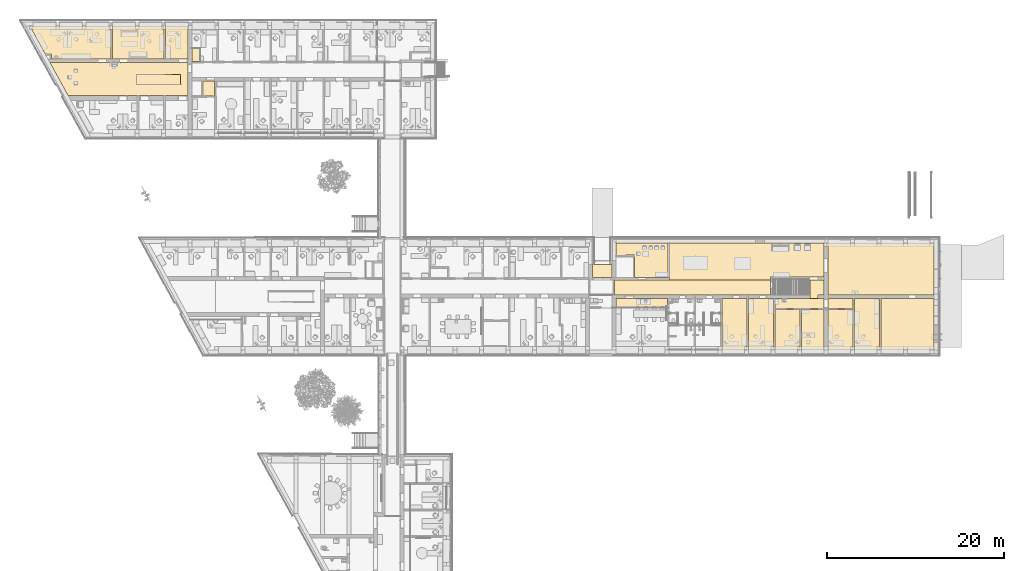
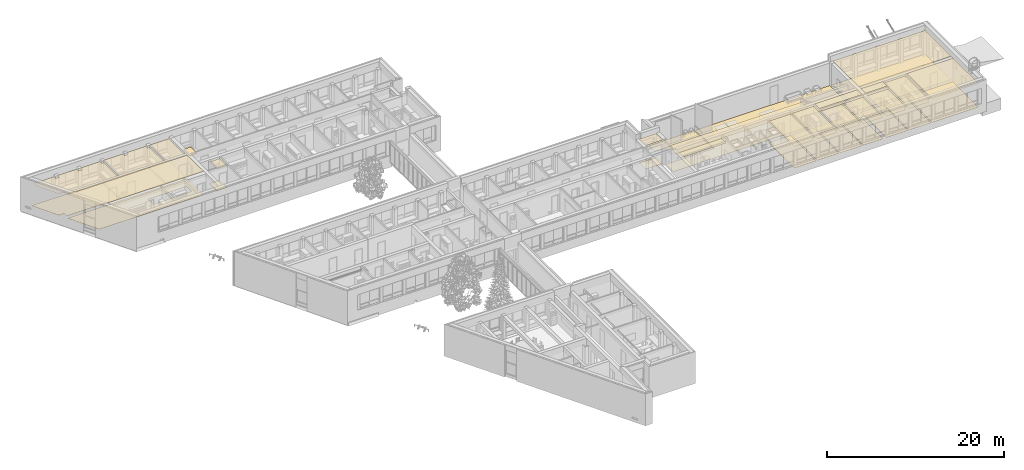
# One storey, part 108 of 194: 37 coverings, 1 opening.
"""IFC2X3 building model written with IfcOpenShell, lengths in millimetres."""

from ifc_helpers import new_model, entity, si_unit, converted_unit, derived_unit, money_unit, direction, frame, origin_with_axes, place, context, subcontext, project, spatial, polyline, outline, extrude, material, type_object, element, save


model = new_model("IFC2X3")

# Units and contexts
model_context = context("Model", 3, precision=1e-05, world=origin_with_axes(), true_north=direction((0.0, 1.0)))
body_context = subcontext(model_context, "Body", "Model", "MODEL_VIEW")
ifc_project = project(units=[si_unit("LENGTHUNIT", "METRE", prefix="MILLI"), si_unit("AREAUNIT", "SQUARE_METRE"), si_unit("VOLUMEUNIT", "CUBIC_METRE"), converted_unit("PLANEANGLEUNIT", "DEGREE", entity("IfcPlaneAngleMeasure", 0.0174532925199), si_unit("PLANEANGLEUNIT", "RADIAN"), dimensions=[0, 0, 0, 0, 0, 0, 0]), si_unit("SOLIDANGLEUNIT", "STERADIAN"), money_unit("EUR"), converted_unit("TIMEUNIT", "Year", entity("IfcTimeMeasure", 31556926.0), si_unit("TIMEUNIT", "SECOND"), dimensions=[0, 0, 1, 0, 0, 0, 0]), si_unit("MASSUNIT", "GRAM", prefix="KILO"), si_unit("THERMODYNAMICTEMPERATUREUNIT", "DEGREE_CELSIUS"), si_unit("LUMINOUSINTENSITYUNIT", "LUMEN"), si_unit("ENERGYUNIT", "JOULE", prefix="MEGA"), derived_unit("THERMALCONDUCTANCEUNIT", [(si_unit("POWERUNIT", "WATT"), 1), (si_unit("LENGTHUNIT", "METRE"), -1), (si_unit("THERMODYNAMICTEMPERATUREUNIT", "KELVIN"), -1)]), derived_unit("SPECIFICHEATCAPACITYUNIT", [(si_unit("ENERGYUNIT", "JOULE"), 1), (si_unit("MASSUNIT", "GRAM", prefix="KILO"), -1), (si_unit("THERMODYNAMICTEMPERATUREUNIT", "KELVIN"), -1)]), derived_unit("MASSDENSITYUNIT", [(si_unit("MASSUNIT", "GRAM", prefix="KILO"), 1), (si_unit("VOLUMEUNIT", "CUBIC_METRE"), -1)])], contexts=[model_context])

# Site, building, storey
site_placement = place(None, origin_with_axes())
site = spatial("IfcSite", under=ifc_project, at=site_placement, Name="Site", CompositionType="ELEMENT")
building_placement = place(site_placement, origin_with_axes())
building = spatial("IfcBuilding", under=site, at=building_placement, Name="Building", CompositionType="ELEMENT")
storey_placement = place(building_placement, frame((0.0, 0.0, 3000.0), z_axis=(0.0, 0.0, 1.0), x_axis=(1.0, 0.0, 0.0)))
storey = spatial("IfcBuildingStorey", under=building, at=storey_placement, Name="2 KORRUS", CompositionType="ELEMENT", Elevation=3000.0)

# Coverings
ifc_material_1 = material(Name="Värv")
covering_type_1 = type_object("IfcCoveringType", Name="L-3", PredefinedType="CLADDING")
covering_1_placement = place(storey_placement, frame((61722.1698335, 44486.8539632, 3250.0), z_axis=(0.0, 0.0, 1.0), x_axis=(1.0, 0.0, 0.0)))
element("IfcCovering", 1, at=covering_1_placement, inside=storey, type_object=covering_type_1, material=ifc_material_1, Name="Konstruktiivne lagi lauspahtel, värvitud", PredefinedType="CLADDING", context=body_context, shape_type="SweptSolid", body=[
    extrude(outline(polyline([(0.0, 0.0), (-229.999856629, 0.0), (-228.814816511, -1486.35987772), (2015.18295119, -1486.35987772), (2015.18295119, -20.5454795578), (0.0, -20.5454795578), (0.0, 0.0)])), origin_with_axes(), (0.0, 0.0, 1.0), 1.0),
])
covering_2_placement = place(storey_placement, frame((88155.3641805, 39495.5332203, 3250.0), z_axis=(0.0, 0.0, 1.0), x_axis=(1.0, 0.0, 0.0)))
element("IfcCovering", 2, at=covering_2_placement, inside=storey, type_object=covering_type_1, material=ifc_material_1, Name="Konstruktiivne lagi lauspahtel, värvitud", PredefinedType="CLADDING", context=body_context, shape_type="SweptSolid", body=[
    extrude(outline(polyline([(0.0, 0.0), (2848.16833802, 0.0), (2848.16833802, 1087.53171052), (0.0, 1087.53171052), (0.0, 0.0)])), origin_with_axes(), (0.0, 0.0, 1.0), 1.0),
])
covering_3_placement = place(storey_placement, frame((82157.3527847, 39493.0554222, 3250.0), z_axis=(0.0, 0.0, 1.0), x_axis=(1.0, 0.0, 0.0)))
element("IfcCovering", 3, at=covering_3_placement, inside=storey, type_object=covering_type_1, material=ifc_material_1, Name="Konstruktiivne lagi lauspahtel, värvitud", PredefinedType="CLADDING", context=body_context, shape_type="SweptSolid", body=[
    extrude(outline(polyline([(0.0, 0.0), (5580.0, 0.0), (5580.0, 1090.00950588), (0.0, 1090.00950588), (0.0, 0.0)])), origin_with_axes(), (0.0, 0.0, 1.0), 1.0),
])
covering_4_placement = place(storey_placement, frame((91.6194374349, 67305.3928576, 3250.0), z_axis=(0.0, 0.0, 1.0), x_axis=(1.0, 0.0, 0.0)))
element("IfcCovering", 4, at=covering_4_placement, inside=storey, type_object=covering_type_1, material=ifc_material_1, Name="Konstruktiivne lagi lauspahtel, värvitud", PredefinedType="CLADDING", context=body_context, shape_type="SweptSolid", body=[
    extrude(outline(polyline([(0.0, 0.0), (2037.22155452, -3700.0), (15645.6069809, -3700.0), (15645.607792, 2.56404746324e-05), (0.0, 0.0)])), origin_with_axes(), (0.0, 0.0, 1.0), 1.0),
])
covering_5_placement = place(storey_placement, frame((63991.5182806, 41003.0649281, 2387.45029227), z_axis=(0.0, 0.0, 1.0), x_axis=(1.0, 0.0, 0.0)))
element("IfcCovering", 5, at=covering_5_placement, inside=storey, type_object=covering_type_1, material=ifc_material_1, Name="Konstruktiivne lagi lauspahtel, värvitud", PredefinedType="CLADDING", context=body_context, shape_type="SweptSolid", body=[
    extrude(outline(polyline([(0.0, 0.0), (17697.3638712, 0.0), (17697.3638712, 1697.42915733), (0.0, 1697.42915733), (0.0, 0.0)])), origin_with_axes(), (0.0, 0.0, 1.0), 1.0),
])
covering_type_2 = type_object("IfcCoveringType", Name="L-5", PredefinedType="CLADDING")
covering_6_placement = place(storey_placement, frame((100196.17431, 40583.0649159, 3250.0), z_axis=(0.0, 0.0, 1.0), x_axis=(1.0, 0.0, 0.0)))
element("IfcCovering", 6, at=covering_6_placement, inside=storey, type_object=covering_type_2, material=ifc_material_1, Name="Konstruktiivne lagi kaetud tolmutõkkega ja värvitud", PredefinedType="CLADDING", context=body_context, shape_type="SweptSolid", body=[
    extrude(outline(polyline([(0.0, 0.0), (-6038.82152519, 0.0), (-6038.82152519, -5796.89069786), (0.892518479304, -5796.37581451), (0.0, 0.0)])), origin_with_axes(), (0.0, 0.0, 1.0), 1.0),
])
covering_7_placement = place(storey_placement, frame((88157.3527318, 46872.3257845, 3250.0), z_axis=(0.0, 0.0, 1.0), x_axis=(1.0, 0.0, 0.0)))
element("IfcCovering", 7, at=covering_7_placement, inside=storey, type_object=covering_type_2, material=ifc_material_1, Name="Konstruktiivne lagi kaetud tolmutõkkega ja värvitud", PredefinedType="CLADDING", context=body_context, shape_type="SweptSolid", body=[
    extrude(outline(polyline([(0.0, 0.0), (0.0, -5869.26085642), (12038.7569242, -5869.26085642), (12037.8531491, 0.0), (0.0, 0.0)])), origin_with_axes(), (0.0, 0.0, 1.0), 1.0),
])
ifc_material_2 = material(Name="Betoon - Ol.Olev konstruktsioon")
covering_type_3 = type_object("IfcCoveringType", Name="P-6", PredefinedType="NOTDEFINED")
covering_8_placement = place(storey_placement, frame((61722.1698335, 44486.8539632, 0.0), z_axis=(0.0, 0.0, 1.0), x_axis=(1.0, 0.0, 0.0)))
element("IfcCovering", 8, at=covering_8_placement, inside=storey, type_object=covering_type_3, material=ifc_material_2, Name="Betoon - Ol.Olev konstruktsioon", PredefinedType="NOTDEFINED", context=body_context, shape_type="SweptSolid", body=[
    extrude(outline(polyline([(0.0, 0.0), (-229.999856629, 0.0), (-228.814816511, -1486.35987772), (2015.18295119, -1486.35987772), (2015.18295119, -20.5454795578), (0.0, -20.5454795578), (0.0, 0.0)])), frame((0.0, 0.0, -20.0), z_axis=(0.0, 0.0, 1.0), x_axis=(1.0, 0.0, 0.0)), (0.0, 0.0, 1.0), 20.0),
])
covering_type_4 = type_object("IfcCoveringType", Name="P-2", PredefinedType="NOTDEFINED")
covering_9_placement = place(storey_placement, frame((17420.839048, 65210.0283722, 0.0), z_axis=(0.0, 0.0, 1.0), x_axis=(1.0, 0.0, 0.0)))
element("IfcCovering", 9, at=covering_9_placement, inside=storey, type_object=covering_type_4, material=ifc_material_2, Name="Betoon - Ol.Olev konstruktsioon", PredefinedType="NOTDEFINED", context=body_context, shape_type="SweptSolid", body=[
    extrude(outline(polyline([(0.0, 0.0), (0.0, -1663.55623173), (1313.67537123, -1663.55623173), (1313.7675072, 0.0), (0.0, 0.0)])), frame((0.0, 0.0, -20.0), z_axis=(0.0, 0.0, 1.0), x_axis=(1.0, 0.0, 0.0)), (0.0, 0.0, 1.0), 20.0),
])
covering_10_placement = place(storey_placement, frame((94007.3527974, 40583.0649281, 0.0), z_axis=(0.0, 0.0, 1.0), x_axis=(1.0, 0.0, 0.0)))
element("IfcCovering", 10, at=covering_10_placement, inside=storey, type_object=covering_type_4, material=ifc_material_2, Name="Betoon - Ol.Olev konstruktsioon", PredefinedType="NOTDEFINED", context=body_context, shape_type="SweptSolid", body=[
    extrude(outline(polyline([(0.0, 0.0), (-2854.78448796, 0.0), (-2849.64436323, -5797.14641134), (0.0, -5796.9034987), (0.0, 0.0)])), frame((0.0, 0.0, -20.0), z_axis=(0.0, 0.0, 1.0), x_axis=(1.0, 0.0, 0.0)), (0.0, 0.0, 1.0), 20.0),
])
covering_11_placement = place(storey_placement, frame((91003.6661884, 39344.739043, 0.0), z_axis=(0.0, 0.0, 1.0), x_axis=(1.0, 0.0, 0.0)))
element("IfcCovering", 11, at=covering_11_placement, inside=storey, type_object=covering_type_4, material=ifc_material_2, Name="Betoon - Ol.Olev konstruktsioon", PredefinedType="NOTDEFINED", context=body_context, shape_type="SweptSolid", body=[
    extrude(outline(polyline([(0.0, 0.0), (-2846.31340371, -1.45157986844), (-2846.31340371, -4559.07628807), (4.04216792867, -4558.83328244), (0.0, 0.0)])), frame((0.0, 0.0, -20.0), z_axis=(0.0, 0.0, 1.0), x_axis=(1.0, 0.0, 0.0)), (0.0, 0.0, 1.0), 20.0),
])
covering_12_placement = place(storey_placement, frame((85156.8414633, 34785.4069798, 0.0), z_axis=(0.0, 0.0, 1.0), x_axis=(1.0, 0.0, 0.0)))
element("IfcCovering", 12, at=covering_12_placement, inside=storey, type_object=covering_type_4, material=ifc_material_2, Name="Betoon - Ol.Olev konstruktsioon", PredefinedType="NOTDEFINED", context=body_context, shape_type="SweptSolid", body=[
    extrude(outline(polyline([(0.0, 0.0), (2580.51135289, 0.219968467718), (2580.51135289, 4557.5239001), (5.8789102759, 4555.48625456), (0.0, 0.0)])), frame((0.0, 0.0, -20.0), z_axis=(0.0, 0.0, 1.0), x_axis=(1.0, 0.0, 0.0)), (0.0, 0.0, 1.0), 20.0),
])
covering_13_placement = place(storey_placement, frame((85012.7201049, 39340.7745453, 0.0), z_axis=(0.0, 0.0, 1.0), x_axis=(1.0, 0.0, 0.0)))
element("IfcCovering", 13, at=covering_13_placement, inside=storey, type_object=covering_type_4, material=ifc_material_2, Name="Betoon - Ol.Olev konstruktsioon", PredefinedType="NOTDEFINED", context=body_context, shape_type="SweptSolid", body=[
    extrude(outline(polyline([(0.0, 0.0), (-2855.36732027, -2.25979517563), (-2855.36732027, -4555.62325347), (-5.87876662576, -4555.380364), (0.0, 0.0)])), frame((0.0, 0.0, -20.0), z_axis=(0.0, 0.0, 1.0), x_axis=(1.0, 0.0, 0.0)), (0.0, 0.0, 1.0), 20.0),
])
covering_14_placement = place(storey_placement, frame((82007.3527427, 40583.0649281, 0.0), z_axis=(0.0, 0.0, 1.0), x_axis=(1.0, 0.0, 0.0)))
element("IfcCovering", 14, at=covering_14_placement, inside=storey, type_object=covering_type_4, material=ifc_material_2, Name="Betoon - Ol.Olev konstruktsioon", PredefinedType="NOTDEFINED", context=body_context, shape_type="SweptSolid", body=[
    extrude(outline(polyline([(0.0, 0.0), (-2854.21203366, 0.0), (-2849.69057302, -5798.16934143), (0.0, -5797.92638593), (0.0, 0.0)])), frame((0.0, 0.0, -20.0), z_axis=(0.0, 0.0, 1.0), x_axis=(1.0, 0.0, 0.0)), (0.0, 0.0, 1.0), 20.0),
])
covering_15_placement = place(storey_placement, frame((79003.140625, 40583.0649281, 0.0), z_axis=(0.0, 0.0, 1.0), x_axis=(1.0, 0.0, 0.0)))
element("IfcCovering", 15, at=covering_15_placement, inside=storey, type_object=covering_type_4, material=ifc_material_2, Name="Betoon - Ol.Olev konstruktsioon", PredefinedType="NOTDEFINED", context=body_context, shape_type="SweptSolid", body=[
    extrude(outline(polyline([(0.0, 0.0), (-2850.44529102, 0.0), (-2845.82227981, -5798.42510227), (4.52148728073, -5798.18213606), (0.0, 0.0)])), frame((0.0, 0.0, -20.0), z_axis=(0.0, 0.0, 1.0), x_axis=(1.0, 0.0, 0.0)), (0.0, 0.0, 1.0), 20.0),
])
covering_16_placement = place(storey_placement, frame((15737.2280801, 71487.2242833, 0.0), z_axis=(0.0, 0.0, 1.0), x_axis=(1.0, 0.0, 0.0)))
element("IfcCovering", 16, at=covering_16_placement, inside=storey, type_object=covering_type_4, material=ifc_material_2, Name="Betoon - Ol.Olev konstruktsioon", PredefinedType="NOTDEFINED", context=body_context, shape_type="SweptSolid", body=[
    extrude(outline(polyline([(0.0, 0.0), (-2575.43771852, -0.491216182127), (-2575.43771852, -3761.83142567), (-0.000784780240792, -3761.83142567), (0.0, 0.0)])), frame((0.0, 0.0, -20.0), z_axis=(0.0, 0.0, 1.0), x_axis=(1.0, 0.0, 0.0)), (0.0, 0.0, 1.0), 20.0),
])
covering_17_placement = place(storey_placement, frame((13011.7903616, 71486.7045047, 0.0), z_axis=(0.0, 0.0, 1.0), x_axis=(1.0, 0.0, 0.0)))
element("IfcCovering", 17, at=covering_17_placement, inside=storey, type_object=covering_type_4, material=ifc_material_2, Name="Betoon - Ol.Olev konstruktsioon", PredefinedType="NOTDEFINED", context=body_context, shape_type="SweptSolid", body=[
    extrude(outline(polyline([(0.0, 0.0), (-5850.47675047, -1.1158909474), (-5849.75961617, -3761.31164705), (0.0, -3761.31164705), (0.0, 0.0)])), frame((0.0, 0.0, -20.0), z_axis=(0.0, 0.0, 1.0), x_axis=(1.0, 0.0, 0.0)), (0.0, 0.0, 1.0), 20.0),
])
covering_18_placement = place(storey_placement, frame((-2209.01410403, 71483.8015418, 0.0), z_axis=(0.0, 0.0, 1.0), x_axis=(1.0, 0.0, 0.0)))
element("IfcCovering", 18, at=covering_18_placement, inside=storey, type_object=covering_type_4, material=ifc_material_2, Name="Betoon - Ol.Olev konstruktsioon", PredefinedType="NOTDEFINED", context=body_context, shape_type="SweptSolid", body=[
    extrude(outline(polyline([(0.0, 0.0), (1754.19507361, -3186.44269001), (2453.15205609, -3186.44269001), (2453.15205609, -3758.40873316), (9221.04487766, -3758.40873316), (9220.32776406, 1.75850160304), (0.0, 0.0)])), frame((0.0, 0.0, -20.0), z_axis=(0.0, 0.0, 1.0), x_axis=(1.0, 0.0, 0.0)), (0.0, 0.0, 1.0), 20.0),
])
ifc_material_3 = material(Name="Kipsplaat")
covering_type_5 = type_object("IfcCoveringType", Name="L-1", PredefinedType="CEILING")
covering_19_placement = place(storey_placement, frame((12741.94885, 71486.6530071, 2950.0), z_axis=(0.0, 0.0, 1.0), x_axis=(1.0, 0.0, 0.0)))
element("IfcCovering", 19, at=covering_19_placement, inside=storey, type_object=covering_type_5, material=ifc_material_3, Name="Ripplagi. Akustine kipsplaat", PredefinedType="CEILING", context=body_context, shape_type="SweptSolid", body=[
    extrude(outline(polyline([(0.0, 0.0), (-2580.00057842, -0.492071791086), (-2580.00057842, -397.213286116), (-3000.00057842, -397.213286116), (-3005.71978882, -0.573312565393), (-5580.63523886, -1.06439342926), (-5579.91810457, -3761.26014953), (269.841511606, -3761.26014953), (269.841485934, -399.920004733), (-0.158488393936, -399.919925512), (0.0, 0.0)])), origin_with_axes(), (0.0, 0.0, 1.0), 20.0),
])
covering_20_placement = place(storey_placement, frame((-1989.65007558, 71085.3927243, 2950.0), z_axis=(0.0, 0.0, 1.0), x_axis=(1.0, 0.0, 0.0)))
element("IfcCovering", 20, at=covering_20_placement, inside=storey, type_object=covering_type_5, material=ifc_material_3, Name="Ripplagi. Akustine kipsplaat", PredefinedType="CEILING", context=body_context, shape_type="SweptSolid", body=[
    extrude(outline(polyline([(0.0, 0.0), (1535.09262863, -2788.03392049), (2233.78793131, -2788.03392049), (2233.78793131, -3359.99989645), (9001.68084921, -3359.99989645), (9001.03981505, 2.04704377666), (8731.76093769, 2.04717791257), (8730.61072471, 400.115705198), (6150.61083057, 399.623695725), (6150.2167401, 2.04717791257), (5730.21676981, 2.04717791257), (5730.14715342, 399.543482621), (3150.14725929, 399.051339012), (3150.12298074, 0.0210592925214), (2730.12301045, 0.0210592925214), (2730.4710924, 398.971394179), (150.471064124, 398.47925057), (150.471064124, 0.000134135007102), (0.0, 0.0)])), origin_with_axes(), (0.0, 0.0, 1.0), 20.0),
])
covering_21_placement = place(storey_placement, frame((15737.2280801, 71487.2242833, 2950.0), z_axis=(0.0, 0.0, 1.0), x_axis=(1.0, 0.0, 0.0)))
element("IfcCovering", 21, at=covering_21_placement, inside=storey, type_object=covering_type_5, material=ifc_material_3, Name="Ripplagi. Akustine kipsplaat", PredefinedType="CEILING", context=body_context, shape_type="SweptSolid", body=[
    extrude(outline(polyline([(0.0, 0.0), (-2575.43771852, -0.491216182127), (-2575.43771852, -3761.83142567), (-0.000784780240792, -3761.83142567), (0.0, 0.0)])), origin_with_axes(), (0.0, 0.0, 1.0), 20.0),
])
covering_22_placement = place(storey_placement, frame((17426.1801696, 65210.0283667, 2950.0), z_axis=(0.0, 0.0, 1.0), x_axis=(1.0, 0.0, 0.0)))
element("IfcCovering", 22, at=covering_22_placement, inside=storey, type_object=covering_type_5, material=ifc_material_3, Name="Ripplagi. Akustine kipsplaat", PredefinedType="CEILING", context=body_context, shape_type="SweptSolid", body=[
    extrude(outline(polyline([(0.0, 0.0), (-4.07817424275e-06, -1663.55623144), (1308.33424499, -1663.55623144), (1308.42638549, 0.0), (0.0, 0.0)])), origin_with_axes(), (0.0, 0.0, 1.0), 20.0),
])
covering_23_placement = place(storey_placement, frame((79003.140625, 40583.0649281, 2950.0), z_axis=(0.0, 0.0, 1.0), x_axis=(1.0, 0.0, 0.0)))
element("IfcCovering", 23, at=covering_23_placement, inside=storey, type_object=covering_type_5, material=ifc_material_3, Name="Ripplagi. Akustine kipsplaat", PredefinedType="CEILING", context=body_context, shape_type="SweptSolid", body=[
    extrude(outline(polyline([(0.0, 0.0), (-2850.44529102, 0.0), (-2845.82227981, -5798.42510228), (-265.753937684, -5798.20516733), (-265.787840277, -5401.4406583), (4.21220959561, -5401.44062363), (0.0, 0.0)])), origin_with_axes(), (0.0, 0.0, 1.0), 20.0),
])
covering_24_placement = place(storey_placement, frame((82007.3527427, 40583.0649281, 2950.0), z_axis=(0.0, 0.0, 1.0), x_axis=(1.0, 0.0, 0.0)))
element("IfcCovering", 24, at=covering_24_placement, inside=storey, type_object=covering_type_5, material=ifc_material_3, Name="Ripplagi. Akustine kipsplaat", PredefinedType="CEILING", context=body_context, shape_type="SweptSolid", body=[
    extrude(outline(polyline([(0.0, 0.0), (-2854.21203366, 0.0), (-2849.69057302, -5798.16934143), (-269.966077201, -5797.94940237), (-269.999957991, -5401.4406583), (5.35737854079e-05, -5401.44064998), (0.0, 0.0)])), origin_with_axes(), (0.0, 0.0, 1.0), 20.0),
])
covering_25_placement = place(storey_placement, frame((85012.7201049, 39340.7745453, 2950.0), z_axis=(0.0, 0.0, 1.0), x_axis=(1.0, 0.0, 0.0)))
element("IfcCovering", 25, at=covering_25_placement, inside=storey, type_object=covering_type_5, material=ifc_material_3, Name="Ripplagi. Akustine kipsplaat", PredefinedType="CEILING", context=body_context, shape_type="SweptSolid", body=[
    extrude(outline(polyline([(0.0, 0.0), (-2855.36732027, -2.25979517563), (-2855.36732027, -4555.62325347), (-275.358733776, -4555.40333439), (-275.367320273, -4159.1502755), (-5.36746357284, -4159.15029756), (0.0, 0.0)])), origin_with_axes(), (0.0, 0.0, 1.0), 20.0),
])
covering_26_placement = place(storey_placement, frame((85156.8414633, 34785.4069798, 2950.0), z_axis=(0.0, 0.0, 1.0), x_axis=(1.0, 0.0, 0.0)))
element("IfcCovering", 26, at=covering_26_placement, inside=storey, type_object=covering_type_5, material=ifc_material_3, Name="Ripplagi. Akustine kipsplaat", PredefinedType="CEILING", context=body_context, shape_type="SweptSolid", body=[
    extrude(outline(polyline([(0.0, 0.0), (2580.51135289, 0.219968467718), (2580.51135289, 4557.5239001), (5.87891027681, 4555.48625455), (0.0, 0.0)])), origin_with_axes(), (0.0, 0.0, 1.0), 20.0),
])
covering_27_placement = place(storey_placement, frame((91003.6661884, 39344.739043, 2950.0), z_axis=(0.0, 0.0, 1.0), x_axis=(1.0, 0.0, 0.0)))
element("IfcCovering", 27, at=covering_27_placement, inside=storey, type_object=covering_type_5, material=ifc_material_3, Name="Ripplagi. Akustine kipsplaat", PredefinedType="CEILING", context=body_context, shape_type="SweptSolid", body=[
    extrude(outline(polyline([(0.0, 0.0), (-2846.31340371, -1.45157986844), (-2846.31340371, -4559.07628807), (-266.304817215, -4558.85633073), (-266.313403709, -4163.11477318), (3.69129968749, -4163.11473569), (0.0, 0.0)])), origin_with_axes(), (0.0, 0.0, 1.0), 20.0),
])
covering_28_placement = place(storey_placement, frame((94007.3527974, 40583.0649281, 2950.0), z_axis=(0.0, 0.0, 1.0), x_axis=(1.0, 0.0, 0.0)))
element("IfcCovering", 28, at=covering_28_placement, inside=storey, type_object=covering_type_5, material=ifc_material_3, Name="Ripplagi. Akustine kipsplaat", PredefinedType="CEILING", context=body_context, shape_type="SweptSolid", body=[
    extrude(outline(polyline([(0.0, 0.0), (-2854.78448796, 0.0), (-2849.64436323, -5797.14641134), (-270.023581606, -5794.8591528), (-270.000012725, -5401.4406583), (-2.67082214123e-05, -5401.44065352), (0.0, 0.0)])), origin_with_axes(), (0.0, 0.0, 1.0), 20.0),
])
covering_type_6 = type_object("IfcCoveringType", Name="P-4", PredefinedType="NOTDEFINED")
covering_29_placement = place(storey_placement, frame((100195.205926, 46872.3258661, 0.0), z_axis=(0.0, 0.0, 1.0), x_axis=(1.0, 0.0, 0.0)))
element("IfcCovering", 29, at=covering_29_placement, inside=storey, type_object=covering_type_6, material=ifc_material_2, Name="Betoon - Ol.Olev konstruktsioon", PredefinedType="NOTDEFINED", context=body_context, shape_type="SweptSolid", body=[
    extrude(outline(polyline([(0.0, 0.0), (-12246.3223752, 0.0), (-12246.3223752, -400.583433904), (-12037.8531938, -400.583433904), (-12037.8531938, -5869.26093798), (0.903730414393, -5869.26093798), (0.0, 0.0)])), frame((0.0, 0.0, -20.0), z_axis=(0.0, 0.0, 1.0), x_axis=(1.0, 0.0, 0.0)), (0.0, 0.0, 1.0), 20.0),
])
covering_30_placement = place(storey_placement, frame((100196.17431, 40583.0649159, 0.0), z_axis=(0.0, 0.0, 1.0), x_axis=(1.0, 0.0, 0.0)))
element("IfcCovering", 30, at=covering_30_placement, inside=storey, type_object=covering_type_6, material=ifc_material_2, Name="Betoon - Ol.Olev konstruktsioon", PredefinedType="NOTDEFINED", context=body_context, shape_type="SweptSolid", body=[
    extrude(outline(polyline([(0.0, 0.0), (-6038.82152519, 0.0), (-6038.82152519, -5796.89069786), (0.892518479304, -5796.37581451), (0.0, 0.0)])), frame((0.0, 0.0, -20.0), z_axis=(0.0, 0.0, 1.0), x_axis=(1.0, 0.0, 0.0)), (0.0, 0.0, 1.0), 20.0),
])
covering_type_7 = type_object("IfcCoveringType", Name="P-1", PredefinedType="NOTDEFINED")
covering_31_placement = place(storey_placement, frame((63989.3092696, 41003.0649281, 0.0), z_axis=(0.0, 0.0, 1.0), x_axis=(1.0, 0.0, 0.0)))
element("IfcCovering", 31, at=covering_31_placement, inside=storey, type_object=covering_type_7, material=ifc_material_2, Name="Põrandakate", PredefinedType="NOTDEFINED", context=body_context, shape_type="SweptSolid", body=[
    extrude(outline(polyline([(0.0, 0.0), (17700.522098, 0.0), (17700.522098, 2021.02013631), (23748.0435151, 2021.02013631), (23748.0435151, 5869.26096486), (6245.41883698, 5869.26096486), (6245.41883698, 1697.42915733), (0.0, 1697.42915733), (0.0, 0.0)])), frame((0.0, 0.0, -20.0), z_axis=(0.0, 0.0, 1.0), x_axis=(1.0, 0.0, 0.0)), (0.0, 0.0, 1.0), 20.0),
])
covering_32_placement = place(storey_placement, frame((82157.3527847, 39535.8161838, 0.0), z_axis=(0.0, 0.0, 1.0), x_axis=(1.0, 0.0, 0.0)))
element("IfcCovering", 32, at=covering_32_placement, inside=storey, type_object=covering_type_7, material=ifc_material_2, Name="Põrandakate", PredefinedType="NOTDEFINED", context=body_context, shape_type="SweptSolid", body=[
    extrude(outline(polyline([(0.0, 0.0), (5541.8878608, -42.9154196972), (5580.0, 0.0), (5580.0, 1047.24874433), (4908.75466906, 1047.24874433), (4908.75466906, 1467.24874433), (5580.0, 1467.24874433), (5580.0, 3193.38183384), (3968.75466906, 3193.38183384), (3968.75466906, 1047.24874433), (0.0, 1047.24874433), (0.0, 0.0)])), frame((0.0, 0.0, -20.0), z_axis=(0.0, 0.0, 1.0), x_axis=(1.0, 0.0, 0.0)), (0.0, 0.0, 1.0), 20.0),
])
covering_33_placement = place(storey_placement, frame((88157.3527847, 40583.0649125, 0.0), z_axis=(0.0, 0.0, 1.0), x_axis=(1.0, 0.0, 0.0)))
element("IfcCovering", 33, at=covering_33_placement, inside=storey, type_object=covering_type_7, material=ifc_material_2, Name="Põrandakate", PredefinedType="NOTDEFINED", context=body_context, shape_type="SweptSolid", body=[
    extrude(outline(polyline([(0.0, 0.0), (0.0, -1089.77740253), (2846.18043808, -1088.32591362), (2845.21545072, 0.0), (0.0, 0.0)])), frame((0.0, 0.0, -20.0), z_axis=(0.0, 0.0, 1.0), x_axis=(1.0, 0.0, 0.0)), (0.0, 0.0, 1.0), 20.0),
])
covering_34_placement = place(storey_placement, frame((70084.7281066, 46872.3259087, 0.0), z_axis=(0.0, 0.0, 1.0), x_axis=(1.0, 0.0, 0.0)))
element("IfcCovering", 34, at=covering_34_placement, inside=storey, type_object=covering_type_7, material=ifc_material_2, Name="Põrandakate", PredefinedType="NOTDEFINED", context=body_context, shape_type="SweptSolid", body=[
    extrude(outline(polyline([(0.0, 0.0), (-5931.05016237, 0.0), (-5929.96176773, -1365.0586135), (-3797.26664592, -1363.67533486), (-3798.8659635, -3871.83182327), (0.0, -3871.83182327), (0.0, 0.0)])), frame((0.0, 0.0, -20.0), z_axis=(0.0, 0.0, 1.0), x_axis=(1.0, 0.0, 0.0)), (0.0, 0.0, 1.0), 20.0),
])

# Covering, opening
covering_35_placement = place(storey_placement, frame((91.6194374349, 67305.3928576, 0.0), z_axis=(0.0, 0.0, 1.0), x_axis=(1.0, 0.0, 0.0)))
covering_35 = element("IfcCovering", 35, at=covering_35_placement, inside=storey, type_object=covering_type_7, material=ifc_material_2, Name="Põrandakate", PredefinedType="NOTDEFINED", context=body_context, shape_type="SweptSolid", body=[
    extrude(outline(polyline([(0.0, 0.0), (2037.22155452, -3700.0), (15645.6070392, -3700.0), (15645.607792, 1.00844772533e-05), (0.0, 0.0)])), frame((0.0, 0.0, -20.0), z_axis=(0.0, 0.0, 1.0), x_axis=(1.0, 0.0, 0.0)), (0.0, 0.0, 1.0), 20.0),
])
opening_placement = place(covering_35_placement, origin_with_axes())
element("IfcOpeningElement", 36, at=opening_placement, cuts=covering_35, Name="Slab Opening", context=body_context, shape_type="SweptSolid", body=[
    extrude(outline(polyline([(9795.07367542, -1333.90299368), (9795.07367542, -2441.14730132), (14778.0884154, -2441.14730132), (14778.0884154, -1333.90299368), (9795.07367542, -1333.90299368)])), frame((0.0, 0.0, -20.0), z_axis=(0.0, 0.0, 1.0), x_axis=(1.0, 0.0, 0.0)), (0.0, 0.0, 1.0), 20.0),
])

# Coverings
covering_type_8 = type_object("IfcCoveringType", Name="L-6", PredefinedType="CEILING")
covering_36_placement = place(storey_placement, frame((64157.3527847, 39573.6766986, 2700.0), z_axis=(0.0, 0.0, 1.0), x_axis=(1.0, 0.0, 0.0)))
element("IfcCovering", 37, at=covering_36_placement, inside=storey, type_object=covering_type_8, material=ifc_material_3, Name="Kahekordne kipsplaadist ripplagi", PredefinedType="CEILING", context=body_context, shape_type="SweptSolid", body=[
    extrude(outline(polyline([(0.0, 0.0), (5846.48700971, 0.0), (5846.48700971, 1009.38822952), (0.0, 1009.38822952), (0.0, 0.0)])), origin_with_axes(), (0.0, 0.0, 1.0), 26.0),
])
covering_37_placement = place(storey_placement, frame((16157.227505, 67465.3596192, 2859.72980294), z_axis=(0.0, 0.0, 1.0), x_axis=(1.0, 0.0, 0.0)))
element("IfcCovering", 38, at=covering_37_placement, inside=storey, type_object=covering_type_8, material=ifc_material_3, Name="Kahekordne kipsplaadist ripplagi", PredefinedType="CEILING", context=body_context, shape_type="SweptSolid", body=[
    extrude(outline(polyline([(0.0, 0.0), (948.49567781, 0.0), (948.49567781, 1481.64111481), (0.0, 1481.64111481), (0.0, 0.0)])), origin_with_axes(), (0.0, 0.0, 1.0), 26.0),
])

save(model, "model.ifc")
